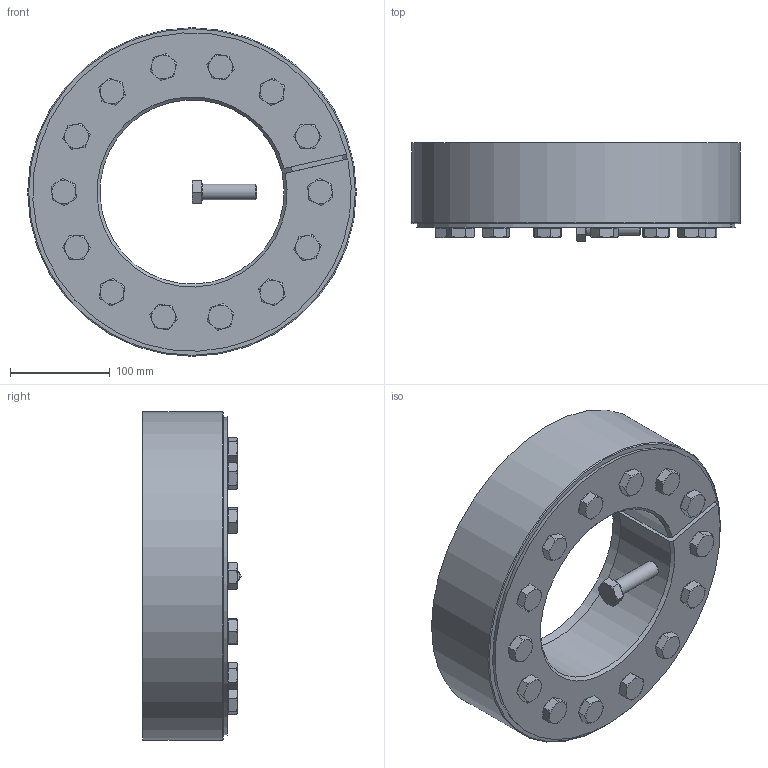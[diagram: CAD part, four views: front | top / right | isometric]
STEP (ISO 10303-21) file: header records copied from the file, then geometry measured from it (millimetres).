
FILE_DESCRIPTION( ( 'Unknown' ), '1' );
FILE_NAME( 'C:/Dokumente und Einstellungen/Sven/Desktop/homepage/cad - homepage/KBS19-1/KBS 19_1 - 185 x 330.stp', 'Unknown', ( 'Unknown' ), ( 'Unknown' ), 'XStep 1.0', 'Unknown', ' ' );
FILE_SCHEMA( ( 'automotive_design' ) );
Length unit declared in the file: millimetre
Products named in the file (3): Assem1; KBS 19_1 - 185 x 330; ISO 4017 - M16 x 55-N
Bounding box: 330 x 98.86 x 330 mm (x, y, z)
Volume: 9641744.2 mm3; surface area: 695139.2 mm2
Topology: 17 solids, 17 shells, 433 faces, 966 edges, 582 vertices
Faces by surface type: plane 243, cone 111, cylinder 62, torus 17
Full cylindrical faces by diameter (mm): 16 x43, 24 x15, 330 x2
Entity records: 1946 total; most frequent: CARTESIAN_POINT 341, DIRECTION 288, ORIENTED_EDGE 222, AXIS2_PLACEMENT_3D 125, EDGE_CURVE 111, EDGE_LOOP 105, VERTEX_POINT 82, FACE_OUTER_BOUND 73
